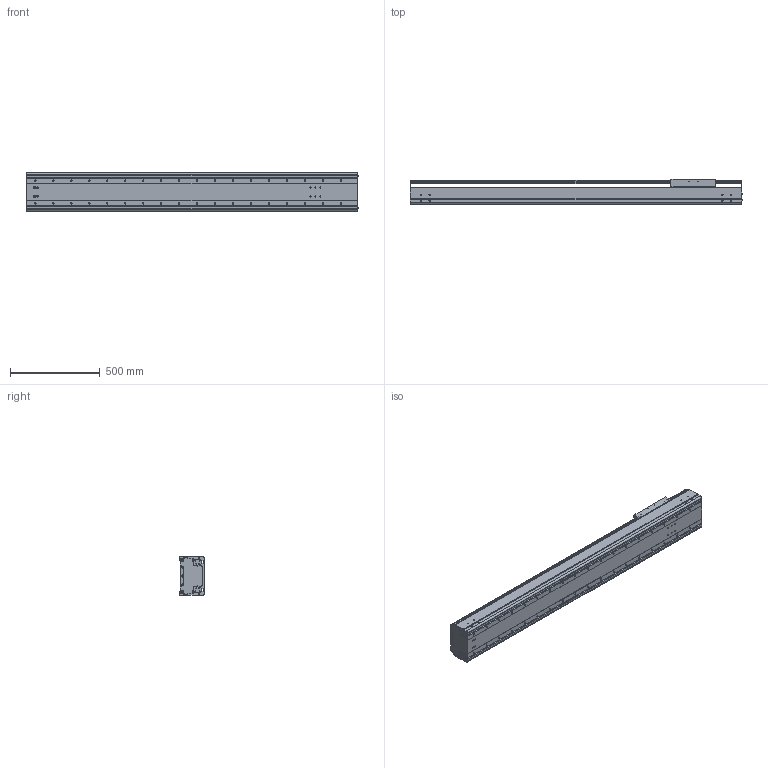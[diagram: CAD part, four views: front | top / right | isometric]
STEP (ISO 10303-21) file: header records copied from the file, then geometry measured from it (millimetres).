
FILE_DESCRIPTION((''),'2;1');
FILE_NAME('BE60G-ST-M_B-E0_IGS_PRT','2017-06-18T',(' '),(''),'PRO/ENGINEER BY PARAMETRIC TECHNOLOGY CORPORATION, 2015030','PRO/ENGINEER BY PARAMETRIC TECHNOLOGY CORPORATION, 2015030','');
FILE_SCHEMA(('CONFIG_CONTROL_DESIGN'));
Length unit declared in the file: millimetre
Products named in the file (1): BE60G-ST-M_B-E0_IGS_PRT
Bounding box: 1847.4 x 140 x 214 mm (x, y, z)
Volume: 14445997.5 mm3; surface area: 3858911.6 mm2
Topology: 2 solids, 164 shells, 1694 faces, 4761 edges, 3131 vertices
Faces by surface type: cylinder 888, plane 634, cone 124, sphere 24, torus 24
Entity records: 56955 total; most frequent: CARTESIAN_POINT 13158, DIRECTION 9176, ORIENTED_EDGE 8634, EDGE_CURVE 4637, AXIS2_PLACEMENT_3D 3441, VERTEX_POINT 3129, VECTOR 2294, LINE 2294
